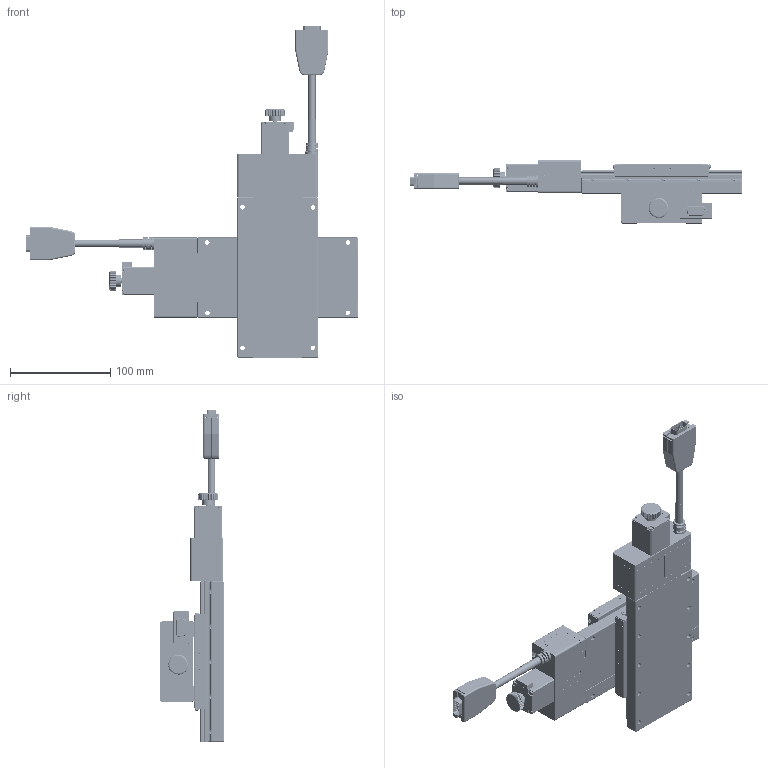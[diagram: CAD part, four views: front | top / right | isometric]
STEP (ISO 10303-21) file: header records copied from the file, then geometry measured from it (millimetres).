
FILE_DESCRIPTION (( 'STEP AP203' ), '1' );
FILE_NAME ('CYN8050-S2?N.STEP', '2023-10-02T01:34:22', ( '' ), ( '' ), 'SwSTEP 2.0', 'SolidWorks 2019', '' );
FILE_SCHEMA (( 'CONFIG_CONTROL_DESIGN' ));
Length unit declared in the file: millimetre
Products named in the file (7): CYN8050-S2?N; CXN8050-S2?N(2023新版)_defeature-2; Group3^CXN8050-S2?N(2023新版)_defeature-3_GMT; Group3^CXN8050-S2?N(2023新版)_defeature-2_GMT; Group4^CXN8050-S2?N(2023新版)_defeature-3_GMT; Group4^CXN8050-S2?N(2023新版)_defeature-2_GMT; CXN80_GMT
Assembly tree (7 placements, depth 3):
  CYN8050-S2?N
    Group3^CXN8050-S2?N(2023新版)_defeature-3_GMT
    Group4^CXN8050-S2?N(2023新版)_defeature-3_GMT
    CXN80_GMT
    CXN8050-S2?N(2023新版)_defeature-2
      Group3^CXN8050-S2?N(2023新版)_defeature-2_GMT
      Group4^CXN8050-S2?N(2023新版)_defeature-2_GMT
      CXN80_GMT
Bounding box: 330.6 x 63.5 x 330.6 mm (x, y, z)
Volume: 119975.4 mm3; surface area: 254802.8 mm2
Topology: 40 solids, 46 shells, 8444 faces, 21830 edges, 13488 vertices
Faces by surface type: plane 3178, cylinder 2568, cone 1068, torus 836, bspline 526, sphere 268
Entity records: 277859 total; most frequent: CARTESIAN_POINT 77578, ORIENTED_EDGE 42292, DIRECTION 42134, EDGE_CURVE 21146, AXIS2_PLACEMENT_3D 16111, VERTEX_POINT 13247, LINE 9912, VECTOR 9912
